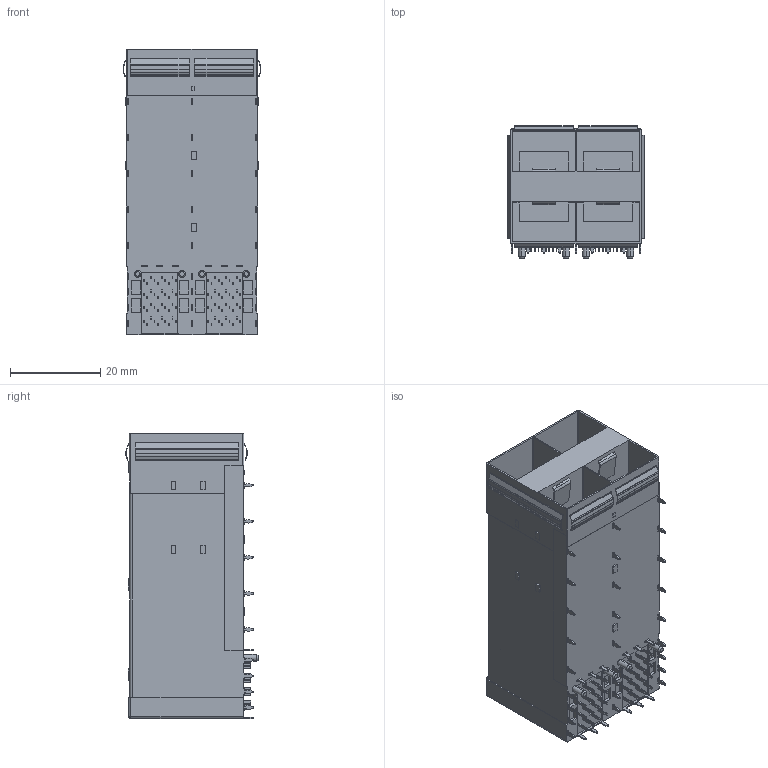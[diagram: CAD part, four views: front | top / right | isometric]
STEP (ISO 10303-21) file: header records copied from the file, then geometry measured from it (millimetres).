
FILE_DESCRIPTION (( 'STEP AP203' ), '1' );
FILE_NAME ('SFP28 2X2拸絳嫖翐.STEP', '2024-10-08T01:49:19', ( '' ), ( '' ), 'SwSTEP 2.0', 'SolidWorks 2018', '' );
FILE_SCHEMA (( 'CONFIG_CONTROL_DESIGN' ));
Length unit declared in the file: millimetre
Products named in the file (1): SFP28 2X2拸絳嫖翐
Bounding box: 30.56 x 29.38 x 63.25 mm (x, y, z)
Volume: 23691 mm3; surface area: 19074.3 mm2
Topology: 1 solids, 1 shells, 1608 faces, 4535 edges, 3070 vertices
Faces by surface type: plane 1096, cylinder 502, cone 8, sphere 2
Entity records: 52138 total; most frequent: CARTESIAN_POINT 9212, ORIENTED_EDGE 9066, DIRECTION 8767, EDGE_CURVE 4533, VECTOR 3517, LINE 3517, VERTEX_POINT 3070, AXIS2_PLACEMENT_3D 2625
